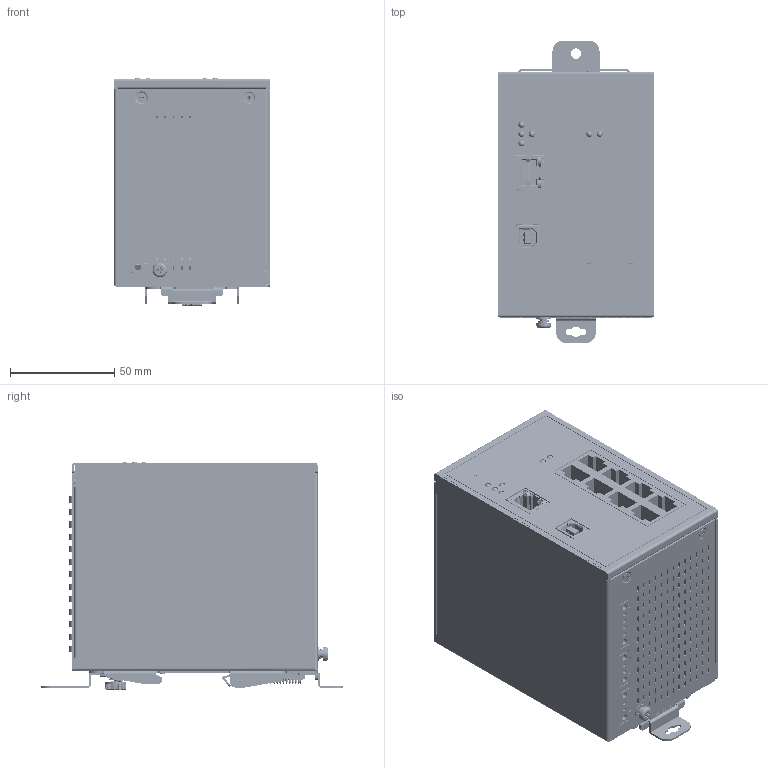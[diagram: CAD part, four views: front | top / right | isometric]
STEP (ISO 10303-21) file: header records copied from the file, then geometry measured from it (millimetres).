
FILE_DESCRIPTION((''),'2;1');
FILE_NAME('DVS-109W02-1GE-R_ME-CENTER_ASM','2014-12-08T',('ANDREW.AS.SUN'),(''),'PRO/ENGINEER BY PARAMETRIC TECHNOLOGY CORPORATION, 2010280','PRO/ENGINEER BY PARAMETRIC TECHNOLOGY CORPORATION, 2010280','');
FILE_SCHEMA(('CONFIG_CONTROL_DESIGN'));
Products named in the file (43): NET9-175600A_BASE; STUD_M3_0_6; STUD_M3_0-S_6; 3991181400_BASE-ASSY_ASM; 3991181200_PANEL; 3991137700_COVER; TOP-PCBA; 307234467C; LA112B-2G-PF-2LED; _DVS109_MB_TOP; _DVS109_MB_BOTTOM; MSD232_FEMALE_16; TOP-PCBA_ASM; BOT-PCBA; 1-2_TS-27H-B_; 307234656B_G3700-4ANT1S1W; RJM_1PORT__D______-5; PW-XRJM-4PORT-INSERT_3-2-13; LED1-5; RJM_1PORT___NN__K_____LED_O____; 307228297C-1-PORTRJ45_ASM; LA112B-2G-PF-1LED; POWER-PIN-02; POWER-PIN-04; _DVS109_PB_BOTTOM; _DVS109_PB_TOP; MSD32_MALE_16; BOT-PCBA_ASM; 3105460500; SCREW_M4; NET14-6011100A_INSULATOR; BACK_PLATE_2; SNAP; SPRING; 3534306500_ME-KIT_ASM; SNAP_2; 46-111-501-1_20100903_; 3460467900_BRACKET_ASM; 3461531900_STAND_OFF_31; 3344571800_HSK-21X21X30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
Assembly tree (60 placements, depth 4):
  DVS-109W02-1GE-R_ME-CENTER_ASM
    3991181400_BASE-ASSY_ASM
      NET9-175600A_BASE
      STUD_M3_0_6  x2
      STUD_M3_0-S_6  x2
    3991181200_PANEL
    3991137700_COVER
    TOP-PCBA_ASM
      TOP-PCBA
      307234467C
      LA112B-2G-PF-2LED
      _DVS109_MB_TOP
      _DVS109_MB_BOTTOM
      MSD232_FEMALE_16
    BOT-PCBA_ASM
      BOT-PCBA
      1-2_TS-27H-B_
      307234656B_G3700-4ANT1S1W
      307228297C-1-PORTRJ45_ASM
        RJM_1PORT__D______-5
        PW-XRJM-4PORT-INSERT_3-2-13
        LED1-5  x2
        RJM_1PORT___NN__K_____LED_O____
      LA112B-2G-PF-1LED  x2
      LA112B-2G-PF-2LED
      POWER-PIN-02  x2
      POWER-PIN-04
      _DVS109_PB_BOTTOM
      _DVS109_PB_TOP
      MSD32_MALE_16
    3105460500  x10
    SCREW_M4
    NET14-6011100A_INSULATOR
    3534306500_ME-KIT_ASM
      BACK_PLATE_2
      SNAP
      SPRING
    3460467900_BRACKET_ASM
      SNAP_2
      46-111-501-1_20100903_
    3461531900_STAND_OFF_31  x4
    3344571800_HSK-21X21X30
    3205308500-NAMEPLATE
    3991181200_PANEL-UPDATE
Bounding box: 75 x 145.3 x 109.98 mm (x, y, z)
Volume: 170557.1 mm3; surface area: 276353.8 mm2
Topology: 65 solids, 71 shells, 7224 faces, 18799 edges, 11923 vertices
Faces by surface type: plane 5211, cylinder 1564, bspline 180, cone 136, torus 86, extrusion 27, sphere 20
Entity records: 216870 total; most frequent: CARTESIAN_POINT 54941, ORIENTED_EDGE 33831, DIRECTION 31775, EDGE_CURVE 16985, VECTOR 13629, LINE 13602, VERTEX_POINT 10766, AXIS2_PLACEMENT_3D 9073
